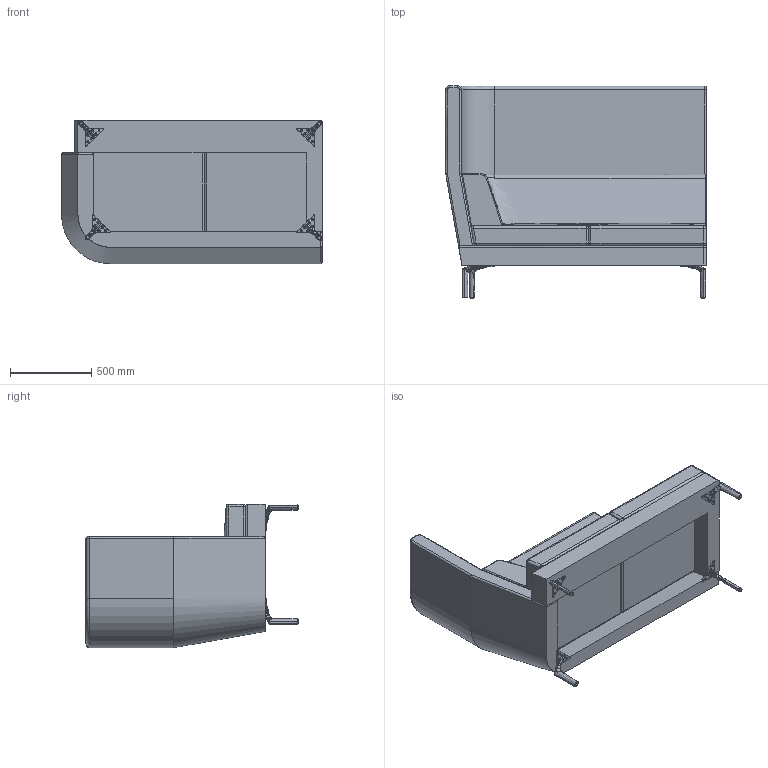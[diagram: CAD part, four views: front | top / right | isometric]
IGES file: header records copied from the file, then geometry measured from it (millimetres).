
Start section: SolidWorks IGES file using analytic representation for surfaces
Global section: file name: P:\3D CAD BLOCKS\ENTENTE\ENT - 2S - SINGLE ARM\ENT- 2S - SINGLE ARM .IGS; native system: SolidWorks 2012; preprocessor: SolidWorks 2012; author: adam; date: 140220.175620; units: millimetre
Bounding box: 1600 x 1301.5 x 880 mm (x, y, z)
Surface area: 10928412.3 mm2 (no closed solid volume)
Topology: 0 solids, 0 shells, 644 faces, 7807 edges, 7796 vertices
Faces by surface type: bspline 352, revolution 292
